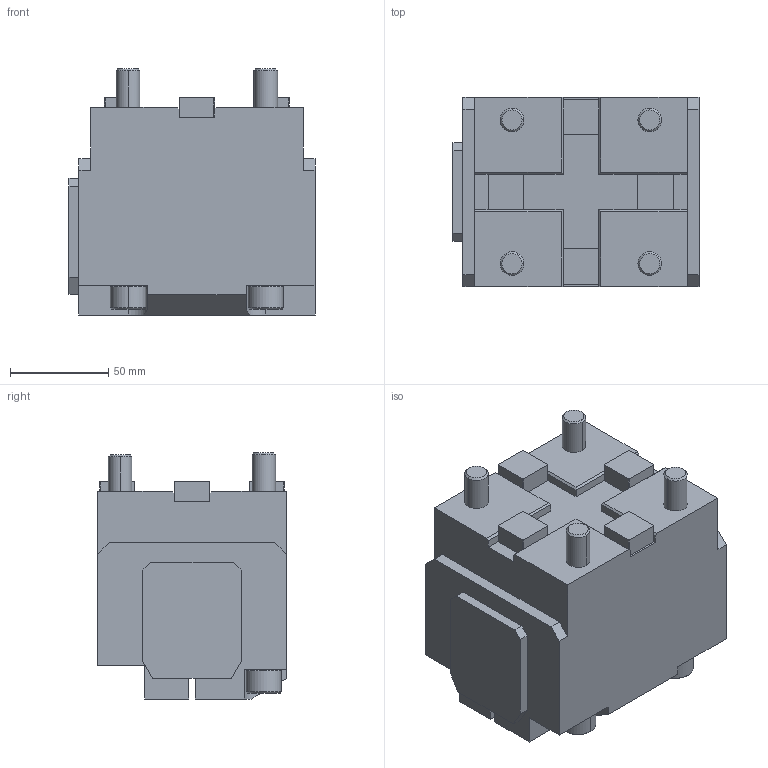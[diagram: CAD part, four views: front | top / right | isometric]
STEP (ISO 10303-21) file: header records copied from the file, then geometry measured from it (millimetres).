
FILE_DESCRIPTION (( 'STEP AP214' ), '1' );
FILE_NAME ('EWS-10976.STEP', '2018-02-09T20:58:35', ( '' ), ( '' ), 'SwSTEP 2.0', 'SolidWorks 2017', '' );
FILE_SCHEMA (( 'AUTOMOTIVE_DESIGN' ));
Length unit declared in the file: inch
Products named in the file (1): EWS-10976
Bounding box: 125 x 96 x 125 mm (x, y, z)
Volume: 1061530.1 mm3; surface area: 91943.6 mm2
Topology: 1 solids, 1 shells, 253 faces, 597 edges, 352 vertices
Faces by surface type: plane 146, cone 66, cylinder 41
Entity records: 7419 total; most frequent: CARTESIAN_POINT 1721, ORIENTED_EDGE 1178, DIRECTION 1167, EDGE_CURVE 589, AXIS2_PLACEMENT_3D 426, VERTEX_POINT 352, VECTOR 315, LINE 315
